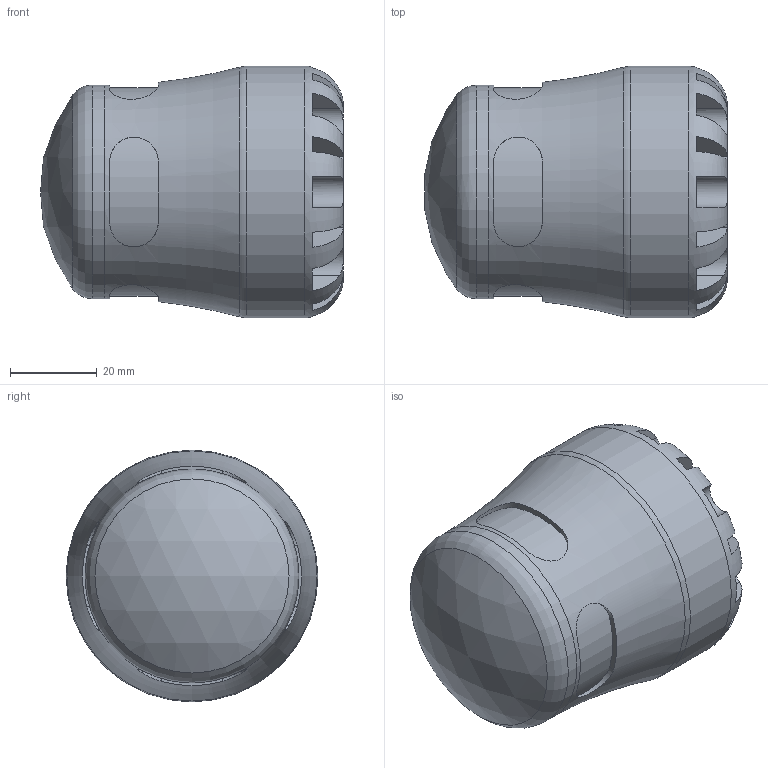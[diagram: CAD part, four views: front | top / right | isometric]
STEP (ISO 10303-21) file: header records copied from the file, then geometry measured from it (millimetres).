
FILE_DESCRIPTION(/* description */ ('PLASSON G-PLASS END CAP 32'),/* implementation_level */ '2;1');
FILE_NAME(/* name */ 'C:\Users\Kirill\Dropbox\99-16-3568-Processing\S1\151200\stp\151200032.stp',/* time_stamp */ '2023-10-21T22:52:14+04:00',/* author */ ('KIM'),/* organization */ (''),/* preprocessor_version */ 'ST-DEVELOPER v17.2',/* originating_system */ 'Autodesk Inventor 2019',/* authorisation */ '');
FILE_SCHEMA (('AUTOMOTIVE_DESIGN { 1 0 10303 214 3 1 1 }'));
Length unit declared in the file: millimetre
Products named in the file (1): 151200032
Bounding box: 69.78 x 58 x 58 mm (x, y, z)
Volume: 95577.2 mm3; surface area: 21742.7 mm2
Topology: 1 solids, 1 shells, 95 faces, 249 edges, 160 vertices
Faces by surface type: plane 57, cylinder 31, torus 4, sphere 2, cone 1
Full cylindrical faces by diameter (mm): 32 x1, 49.3 x1, 58 x1
Entity records: 3878 total; most frequent: CARTESIAN_POINT 1455, ORIENTED_EDGE 498, DIRECTION 478, EDGE_CURVE 249, AXIS2_PLACEMENT_3D 197, VERTEX_POINT 160, CIRCLE 101, EDGE_LOOP 99
